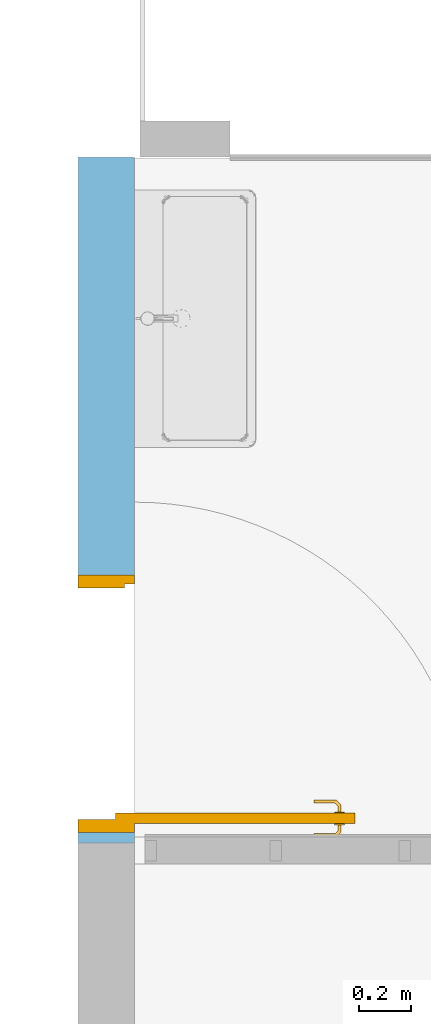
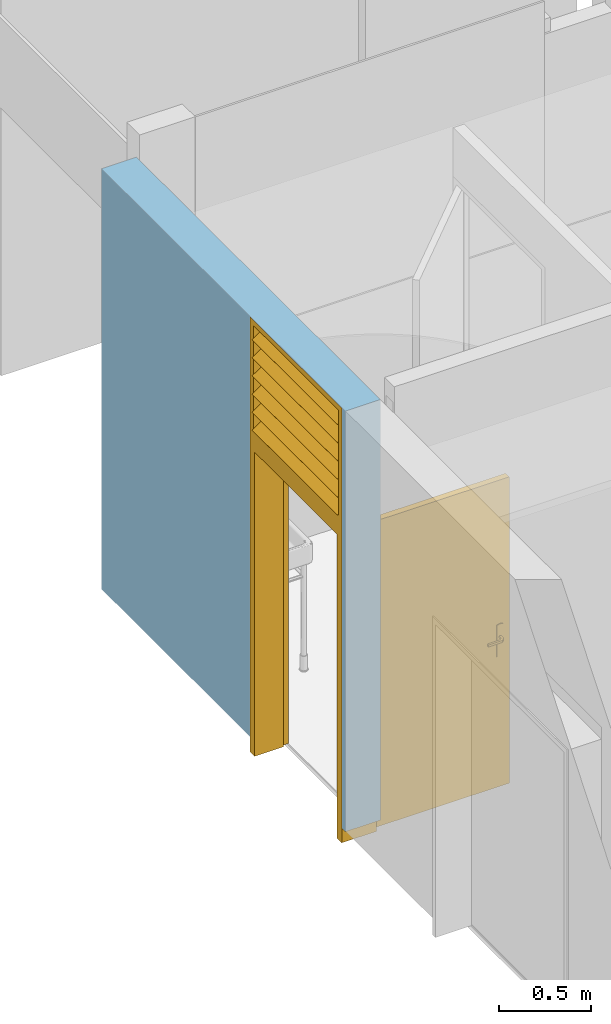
# One storey, part 9 of 15: 1 door, 1 opening, plus 1 element that does not belong to this part.
"""IFC2X3 building model written with IfcOpenShell, lengths in metres."""

from ifc_helpers import new_model, entity, si_unit, converted_unit, derived_unit, direction, frame, frame_2d, origin, place, context, subcontext, project, spatial, rectangle, extrude, faceted_brep, source, transform, mapped, material, material_list, layer, layer_set, layer_usage, type_object, type_shapes, element, fill, save


model = new_model("IFC2X3")

# Units and contexts
model_context = context("Model", 3, precision=1e-05, world=origin(), true_north=direction((6.12303176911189e-17, 1.0)))
body_context = subcontext(model_context, "Body", "Model", "MODEL_VIEW")
ifc_project = project(units=[si_unit("LENGTHUNIT", "METRE"), si_unit("AREAUNIT", "SQUARE_METRE"), si_unit("VOLUMEUNIT", "CUBIC_METRE"), converted_unit("PLANEANGLEUNIT", "DEGREE", entity("IfcRatioMeasure", 0.0174532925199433), si_unit("PLANEANGLEUNIT", "RADIAN"), dimensions=[0, 0, 0, 0, 0, 0, 0]), si_unit("MASSUNIT", "GRAM", prefix="KILO"), derived_unit("MASSDENSITYUNIT", [(si_unit("MASSUNIT", "GRAM", prefix="KILO"), 1), (si_unit("LENGTHUNIT", "METRE"), -3)]), si_unit("TIMEUNIT", "SECOND"), si_unit("FREQUENCYUNIT", "HERTZ"), si_unit("THERMODYNAMICTEMPERATUREUNIT", "DEGREE_CELSIUS"), derived_unit("THERMALTRANSMITTANCEUNIT", [(si_unit("MASSUNIT", "GRAM", prefix="KILO"), 1), (si_unit("THERMODYNAMICTEMPERATUREUNIT", "KELVIN"), -1), (si_unit("TIMEUNIT", "SECOND"), -3)]), derived_unit("VOLUMETRICFLOWRATEUNIT", [(si_unit("LENGTHUNIT", "METRE"), 3), (si_unit("TIMEUNIT", "SECOND"), -1)]), si_unit("ELECTRICCURRENTUNIT", "AMPERE"), si_unit("ELECTRICVOLTAGEUNIT", "VOLT"), si_unit("POWERUNIT", "WATT"), si_unit("FORCEUNIT", "NEWTON", prefix="KILO"), si_unit("ILLUMINANCEUNIT", "LUX"), si_unit("LUMINOUSFLUXUNIT", "LUMEN"), si_unit("LUMINOUSINTENSITYUNIT", "CANDELA"), derived_unit("USERDEFINED", [(si_unit("MASSUNIT", "GRAM", prefix="KILO"), -1), (si_unit("LENGTHUNIT", "METRE"), -2), (si_unit("TIMEUNIT", "SECOND"), 3), (si_unit("LUMINOUSFLUXUNIT", "LUMEN"), 1)]), derived_unit("LINEARVELOCITYUNIT", [(si_unit("LENGTHUNIT", "METRE"), 1), (si_unit("TIMEUNIT", "SECOND"), -1)]), si_unit("PRESSUREUNIT", "PASCAL"), derived_unit("USERDEFINED", [(si_unit("LENGTHUNIT", "METRE"), -2), (si_unit("MASSUNIT", "GRAM", prefix="KILO"), 1), (si_unit("TIMEUNIT", "SECOND"), -2)])], contexts=[model_context])

# Site, building, storey
site_placement = place(None, origin())
site = spatial("IfcSite", under=ifc_project, at=site_placement, Name="Surface", CompositionType="ELEMENT")
building_placement = place(site_placement, origin())
building = spatial("IfcBuilding", under=site, at=building_placement, Name="ExPREF", CompositionType="ELEMENT")
storey_placement = place(building_placement, frame((0.0, 0.0, 7.83)))
storey = spatial("IfcBuildingStorey", under=building, at=storey_placement, Name="R+2", CompositionType="ELEMENT", Elevation=7.83)

# Wall, opening, door
ifc_material_1 = material(Name="AA-BTC")
ifc_layer = layer(ifc_material_1, 0.22)
ifc_layer_set = layer_set([ifc_layer], Name="Mur de base:A-prémur BTC")
ifc_layer_usage = layer_usage(ifc_layer_set, "AXIS2", "NEGATIVE", 0.11)
wall_type = type_object("IfcWallType", Name="Mur de base:A-prémur BTC", PredefinedType="STANDARD", material=ifc_layer_set)
wall_placement = place(storey_placement, frame((45.269743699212, -189.77806962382, 0.0999999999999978), z_axis=(0.0, 0.0, 1.0), x_axis=(0.0, 1.0, 0.0)))
wall = element("IfcWallStandardCase", 1, at=wall_placement, inside=storey, type_object=wall_type, material=ifc_layer_usage, Name="Mur de base:A-prémur BTC", ObjectType="Mur de base:A-prémur BTC", context=body_context, shape_type="SweptSolid", body=[
    extrude(rectangle(XDim=2.66158136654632, YDim=0.220000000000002, at=frame_2d((1.33079068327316, 2.35922392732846e-16), x_axis=(-1.0, 0.0))), origin(), (0.0, 0.0, 1.0), 2.8),
])
opening_placement = place(wall_placement, frame((1.03999999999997, 0.109999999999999, -0.0999999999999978)))
opening = element("IfcOpeningElement", 2, at=opening_placement, cuts=wall, Name="Porte extérieur + naco:PP (0.93m x 2.04m):1", ObjectType="Opening", context=body_context, shape_type="SweptSolid", body=[
    extrude(rectangle(XDim=2.89571000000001, YDim=0.999999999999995, at=frame_2d((1.447855, 0.499999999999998), x_axis=(1.0, 0.0))), frame((0.0, 0.0, 0.0), z_axis=(0.0, -1.0, 0.0), x_axis=(0.0, 0.0, 1.0)), (0.0, 0.0, 1.0), 0.22),
])
ifc_material_2 = material(Name="AA-Aluminium")
ifc_material_3 = material(Name="AA-vitrage")
ifc_material_4 = material(Name="AA-Blanc satiné")
ifc_material_5 = material(Name="AA-bois menuiseries")
ifc_material_list_1 = material_list([ifc_material_2, ifc_material_3, ifc_material_4, ifc_material_5])
ifc_material_list_2 = material_list([ifc_material_2, ifc_material_3, ifc_material_4, ifc_material_5])
door_style = type_object("IfcDoorStyle", Name="PP (0.93m x 2.04m)", ConstructionType="NOTDEFINED", OperationType="SINGLE_SWING_RIGHT", ParameterTakesPrecedence=False, Sizeable=False, material=ifc_material_list_2)
shared_shape = source(origin(), body_context, "Body", "Brep", [
    faceted_brep([(0.105000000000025, 0.118950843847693, 2.83816600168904), (0.105000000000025, 0.102098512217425, 2.84996613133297), (0.105000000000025, 0.106516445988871, 2.85627559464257), (0.105000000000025, 0.123368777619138, 2.84447546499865), (1.03500000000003, 0.118950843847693, 2.83816600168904), (1.03500000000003, 0.123368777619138, 2.84447546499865), (1.03500000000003, 0.106516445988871, 2.85627559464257), (1.03500000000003, 0.102098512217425, 2.84996613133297)], [[[0, 1, 2, 3]], [[4, 5, 6, 7]], [[1, 0, 4, 7]], [[2, 1, 7, 6]], [[3, 2, 6, 5]], [[0, 3, 5, 4]]]),
    faceted_brep([(0.105000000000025, 0.119753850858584, 2.83931281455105), (0.105000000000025, 0.122621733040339, 2.84340857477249), (0.105000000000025, 0.228642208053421, 2.76917223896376), (0.105000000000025, 0.225774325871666, 2.76507647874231), (1.03500000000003, 0.119753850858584, 2.83931281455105), (1.03500000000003, 0.225774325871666, 2.76507647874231), (1.03500000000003, 0.228642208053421, 2.76917223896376), (1.03500000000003, 0.122621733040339, 2.84340857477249)], [[[0, 1, 2, 3]], [[4, 5, 6, 7]], [[1, 0, 4, 7]], [[2, 1, 7, 6]], [[3, 2, 6, 5]], [[0, 3, 5, 4]]]),
    faceted_brep([(0.105000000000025, 0.118950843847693, 2.23571998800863), (0.105000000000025, 0.102098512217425, 2.24752011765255), (0.105000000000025, 0.106516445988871, 2.25382958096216), (0.105000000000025, 0.123368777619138, 2.24202945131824), (1.03500000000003, 0.118950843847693, 2.23571998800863), (1.03500000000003, 0.123368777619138, 2.24202945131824), (1.03500000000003, 0.106516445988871, 2.25382958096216), (1.03500000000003, 0.102098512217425, 2.24752011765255)], [[[0, 1, 2, 3]], [[4, 5, 6, 7]], [[1, 0, 4, 7]], [[2, 1, 7, 6]], [[3, 2, 6, 5]], [[0, 3, 5, 4]]]),
    faceted_brep([(0.105000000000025, 0.119753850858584, 2.23686680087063), (0.105000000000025, 0.122621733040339, 2.24096256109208), (0.105000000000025, 0.228642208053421, 2.16672622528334), (0.105000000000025, 0.225774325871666, 2.1626304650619), (1.03500000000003, 0.119753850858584, 2.23686680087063), (1.03500000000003, 0.225774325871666, 2.1626304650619), (1.03500000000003, 0.228642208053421, 2.16672622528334), (1.03500000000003, 0.122621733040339, 2.24096256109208)], [[[0, 1, 2, 3]], [[4, 5, 6, 7]], [[1, 0, 4, 7]], [[2, 1, 7, 6]], [[3, 2, 6, 5]], [[0, 3, 5, 4]]]),
    faceted_brep([(0.105000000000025, 0.118950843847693, 2.35416600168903), (0.105000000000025, 0.102098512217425, 2.36596613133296), (0.105000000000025, 0.106516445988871, 2.37227559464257), (0.105000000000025, 0.123368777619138, 2.36047546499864), (1.03500000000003, 0.118950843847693, 2.35416600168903), (1.03500000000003, 0.123368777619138, 2.36047546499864), (1.03500000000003, 0.106516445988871, 2.37227559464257), (1.03500000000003, 0.102098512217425, 2.36596613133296)], [[[0, 1, 2, 3]], [[4, 5, 6, 7]], [[1, 0, 4, 7]], [[2, 1, 7, 6]], [[3, 2, 6, 5]], [[0, 3, 5, 4]]]),
    faceted_brep([(0.105000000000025, 0.119753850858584, 2.35531281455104), (0.105000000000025, 0.122621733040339, 2.35940857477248), (0.105000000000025, 0.228642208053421, 2.28517223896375), (0.105000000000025, 0.225774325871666, 2.2810764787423), (1.03500000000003, 0.119753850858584, 2.35531281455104), (1.03500000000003, 0.225774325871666, 2.2810764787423), (1.03500000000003, 0.228642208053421, 2.28517223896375), (1.03500000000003, 0.122621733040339, 2.35940857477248)], [[[0, 1, 2, 3]], [[4, 5, 6, 7]], [[1, 0, 4, 7]], [[2, 1, 7, 6]], [[3, 2, 6, 5]], [[0, 3, 5, 4]]]),
    faceted_brep([(0.105000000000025, 0.118950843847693, 2.47516600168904), (0.105000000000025, 0.102098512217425, 2.48696613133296), (0.105000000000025, 0.106516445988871, 2.49327559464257), (0.105000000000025, 0.123368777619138, 2.48147546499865), (1.03500000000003, 0.118950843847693, 2.47516600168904), (1.03500000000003, 0.123368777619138, 2.48147546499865), (1.03500000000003, 0.106516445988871, 2.49327559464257), (1.03500000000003, 0.102098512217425, 2.48696613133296)], [[[0, 1, 2, 3]], [[4, 5, 6, 7]], [[1, 0, 4, 7]], [[2, 1, 7, 6]], [[3, 2, 6, 5]], [[0, 3, 5, 4]]]),
    faceted_brep([(0.105000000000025, 0.119753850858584, 2.47631281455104), (0.105000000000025, 0.122621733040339, 2.48040857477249), (0.105000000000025, 0.228642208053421, 2.40617223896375), (0.105000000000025, 0.225774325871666, 2.40207647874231), (1.03500000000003, 0.119753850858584, 2.47631281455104), (1.03500000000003, 0.225774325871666, 2.40207647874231), (1.03500000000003, 0.228642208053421, 2.40617223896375), (1.03500000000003, 0.122621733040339, 2.48040857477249)], [[[0, 1, 2, 3]], [[4, 5, 6, 7]], [[1, 0, 4, 7]], [[2, 1, 7, 6]], [[3, 2, 6, 5]], [[0, 3, 5, 4]]]),
    faceted_brep([(0.105000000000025, 0.118950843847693, 2.71716600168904), (0.105000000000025, 0.102098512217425, 2.72896613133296), (0.105000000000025, 0.106516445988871, 2.73527559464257), (0.105000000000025, 0.123368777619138, 2.72347546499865), (1.03500000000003, 0.118950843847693, 2.71716600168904), (1.03500000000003, 0.123368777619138, 2.72347546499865), (1.03500000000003, 0.106516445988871, 2.73527559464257), (1.03500000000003, 0.102098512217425, 2.72896613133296)], [[[0, 1, 2, 3]], [[4, 5, 6, 7]], [[1, 0, 4, 7]], [[2, 1, 7, 6]], [[3, 2, 6, 5]], [[0, 3, 5, 4]]]),
    faceted_brep([(0.105000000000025, 0.119753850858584, 2.71831281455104), (0.105000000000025, 0.122621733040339, 2.72240857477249), (0.105000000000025, 0.228642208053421, 2.64817223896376), (0.105000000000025, 0.225774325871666, 2.64407647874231), (1.03500000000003, 0.119753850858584, 2.71831281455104), (1.03500000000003, 0.225774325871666, 2.64407647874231), (1.03500000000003, 0.228642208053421, 2.64817223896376), (1.03500000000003, 0.122621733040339, 2.72240857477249)], [[[0, 1, 2, 3]], [[4, 5, 6, 7]], [[1, 0, 4, 7]], [[2, 1, 7, 6]], [[3, 2, 6, 5]], [[0, 3, 5, 4]]]),
    faceted_brep([(0.105000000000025, 0.118950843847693, 2.59616600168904), (0.105000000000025, 0.102098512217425, 2.60796613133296), (0.105000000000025, 0.106516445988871, 2.61427559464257), (0.105000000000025, 0.123368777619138, 2.60247546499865), (1.03500000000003, 0.118950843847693, 2.59616600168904), (1.03500000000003, 0.123368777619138, 2.60247546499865), (1.03500000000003, 0.106516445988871, 2.61427559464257), (1.03500000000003, 0.102098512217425, 2.60796613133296)], [[[0, 1, 2, 3]], [[4, 5, 6, 7]], [[1, 0, 4, 7]], [[2, 1, 7, 6]], [[3, 2, 6, 5]], [[0, 3, 5, 4]]]),
    faceted_brep([(0.105000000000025, 0.119753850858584, 2.59731281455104), (0.105000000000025, 0.122621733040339, 2.60140857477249), (0.105000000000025, 0.228642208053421, 2.52717223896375), (0.105000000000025, 0.225774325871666, 2.52307647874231), (1.03500000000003, 0.119753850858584, 2.59731281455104), (1.03500000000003, 0.225774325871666, 2.52307647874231), (1.03500000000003, 0.228642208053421, 2.52717223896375), (1.03500000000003, 0.122621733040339, 2.60140857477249)], [[[0, 1, 2, 3]], [[4, 5, 6, 7]], [[1, 0, 4, 7]], [[2, 1, 7, 6]], [[3, 2, 6, 5]], [[0, 3, 5, 4]]]),
    faceted_brep([(0.172485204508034, -0.788999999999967, 1.007), (0.172485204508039, -0.788999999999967, 0.993000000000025), (0.150000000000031, -0.788999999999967, 0.993000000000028), (0.150000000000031, -0.788999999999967, 1.007), (0.177455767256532, -0.801000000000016, 1.007), (0.150000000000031, -0.801000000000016, 1.007), (0.150000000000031, -0.801000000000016, 0.992999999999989), (0.177455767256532, -0.801000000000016, 0.992999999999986), (0.195970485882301, -0.782485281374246, 0.992999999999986), (0.195970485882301, -0.782485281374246, 1.007), (0.187945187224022, -0.694954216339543, 1.00778044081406), (0.191995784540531, -0.694954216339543, 1.00778044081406), (0.195970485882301, -0.694954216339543, 1.007), (0.195970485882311, -0.694954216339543, 0.992999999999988), (0.19199578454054, -0.694954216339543, 0.99221955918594), (0.187945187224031, -0.694954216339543, 0.992219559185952), (0.183970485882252, -0.694954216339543, 0.993000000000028), (0.183970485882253, -0.694954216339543, 1.007), (0.183970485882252, -0.777514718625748, 0.993000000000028), (0.183970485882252, -0.777514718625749, 1.007), (0.183970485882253, -0.736234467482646, 1.007), (0.183970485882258, -0.736234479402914, 0.993000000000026), (0.189970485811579, -0.737057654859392, 0.992121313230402), (0.195970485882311, -0.742554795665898, 0.992999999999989), (0.19199578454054, -0.780838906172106, 0.99221955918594), (0.187945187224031, -0.779161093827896, 0.992219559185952), (0.150000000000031, -0.792974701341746, 0.992219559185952), (0.150000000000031, -0.797025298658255, 0.99221955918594), (0.150000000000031, -0.797025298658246, 1.00778044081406), (0.150000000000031, -0.792974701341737, 1.00778044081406), (0.174131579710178, -0.792974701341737, 1.00778044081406), (0.175809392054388, -0.797025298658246, 1.00778044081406), (0.191995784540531, -0.780838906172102, 1.00778044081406), (0.187945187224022, -0.779161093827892, 1.00778044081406), (0.175809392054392, -0.797025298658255, 0.99221955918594), (0.174131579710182, -0.792974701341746, 0.992219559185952), (0.189970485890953, -0.737057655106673, 1.0078786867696), (0.195970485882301, -0.742554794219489, 1.007)], [[[0, 1, 2, 3]], [[4, 5, 6, 7]], [[8, 9, 4, 7]], [[10, 11, 12, 13, 14, 15, 16, 17]], [[18, 19, 20, 17, 16, 21]], [[22, 14, 23]], [[23, 14, 13]], [[23, 8, 24]], [[25, 21, 22]], [[21, 25, 18]], [[16, 15, 21]], [[22, 15, 14]], [[22, 21, 15]], [[22, 23, 24]], [[25, 22, 24]], [[26, 27, 6, 5, 28, 29, 3, 2]], [[29, 30, 0, 3]], [[29, 28, 31, 32, 33, 30]], [[5, 4, 31, 28]], [[6, 27, 34, 7]], [[27, 26, 35, 25, 24, 34]], [[26, 2, 1, 35]], [[19, 18, 1, 0]], [[0, 30, 33, 19]], [[4, 9, 32, 31]], [[7, 34, 24, 8]], [[35, 1, 18, 25]], [[36, 10, 20]], [[11, 36, 37]], [[33, 20, 19]], [[10, 17, 20]], [[11, 37, 12]], [[37, 32, 9]], [[36, 32, 37]], [[36, 33, 32]], [[36, 20, 33]], [[10, 36, 11]], [[9, 8, 23, 13, 12, 37]]]),
    faceted_brep([(0.100000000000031, -0.792974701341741, 1.00778044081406), (0.100000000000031, -0.79702529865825, 1.00778044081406), (0.100000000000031, -0.80100000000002, 1.00699999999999), (0.100000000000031, -0.801000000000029, 0.992999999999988), (0.100000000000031, -0.797025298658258, 0.99221955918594), (0.100000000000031, -0.792974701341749, 0.992219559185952), (0.100000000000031, -0.78899999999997, 0.993000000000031), (0.100000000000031, -0.788999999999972, 1.007), (0.0659718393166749, -0.777652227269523, 0.993000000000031), (0.065971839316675, -0.777652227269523, 1.00699999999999), (0.0773196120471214, -0.78899999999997, 1.00699999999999), (0.0773196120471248, -0.788999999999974, 0.993000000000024), (0.0539718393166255, -0.78262279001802, 1.00699999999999), (0.0539718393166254, -0.78262279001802, 0.992999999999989), (0.0723490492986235, -0.80100000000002, 0.992999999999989), (0.0723490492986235, -0.80100000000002, 1.007), (0.065971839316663, -0.736316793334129, 0.993000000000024), (0.065971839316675, -0.694981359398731, 0.993000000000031), (0.065971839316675, -0.694981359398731, 1.00699999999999), (0.065971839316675, -0.736316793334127, 1.007), (0.0739954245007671, -0.79702529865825, 1.00778044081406), (0.0756732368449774, -0.792974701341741, 1.00778044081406), (0.0619971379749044, -0.779298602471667, 1.00778044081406), (0.0579465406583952, -0.780976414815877, 1.00778044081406), (0.0756732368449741, -0.792974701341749, 0.992219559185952), (0.0739954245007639, -0.797025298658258, 0.99221955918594), (0.0579465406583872, -0.78097641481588, 0.99221955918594), (0.0619971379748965, -0.77929860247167, 0.992219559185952), (0.0539718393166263, -0.694981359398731, 1.007), (0.0579465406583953, -0.694981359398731, 1.00778044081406), (0.0619971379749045, -0.694981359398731, 1.00778044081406), (0.0619971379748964, -0.694981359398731, 0.992219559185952), (0.0579465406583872, -0.694981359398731, 0.99221955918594), (0.0539718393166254, -0.694981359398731, 0.992999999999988), (0.059971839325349, -0.737139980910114, 1.0078786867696), (0.053971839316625, -0.74269230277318, 1.007), (0.0599718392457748, -0.737139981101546, 0.992121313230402), (0.0539718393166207, -0.74269231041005, 0.992999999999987)], [[[0, 1, 2, 3, 4, 5, 6, 7]], [[8, 9, 10, 11]], [[12, 13, 14, 15]], [[9, 8, 16, 17, 18, 19]], [[2, 1, 20, 15]], [[1, 0, 21, 22, 23, 20]], [[0, 7, 10, 21]], [[11, 10, 7, 6]], [[5, 24, 11, 6]], [[5, 4, 25, 26, 27, 24]], [[3, 14, 25, 4]], [[15, 14, 3, 2]], [[15, 20, 23, 12]], [[21, 10, 9, 22]], [[11, 24, 27, 8]], [[25, 14, 13, 26]], [[28, 29, 30, 18, 17, 31, 32, 33]], [[34, 29, 35]], [[35, 29, 28]], [[35, 12, 23]], [[22, 19, 34]], [[19, 22, 9]], [[18, 30, 19]], [[34, 30, 29]], [[34, 19, 30]], [[34, 35, 23]], [[22, 34, 23]], [[36, 31, 16]], [[32, 36, 37]], [[27, 16, 8]], [[31, 17, 16]], [[32, 37, 33]], [[37, 26, 13]], [[36, 26, 37]], [[36, 27, 26]], [[36, 16, 27]], [[31, 36, 32]], [[13, 12, 35, 28, 33, 37]]]),
    faceted_brep([(0.150000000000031, -0.794999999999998, 1.08535898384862), (0.150000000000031, -0.805352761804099, 1.08399601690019), (0.150000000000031, -0.814999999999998, 1.08), (0.150000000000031, -0.814999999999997, 0.870000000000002), (0.150000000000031, -0.805352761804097, 0.866003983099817), (0.150000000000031, -0.794999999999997, 0.86464101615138), (0.150000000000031, -0.784647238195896, 0.866003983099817), (0.150000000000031, -0.774999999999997, 0.870000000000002), (0.150000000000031, -0.774999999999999, 1.08), (0.150000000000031, -0.784647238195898, 1.08399601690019), (0.145000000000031, -0.805352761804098, 0.866003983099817), (0.145000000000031, -0.814999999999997, 0.870000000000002), (0.145000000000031, -0.794999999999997, 0.86464101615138), (0.145000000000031, -0.784647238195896, 0.866003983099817), (0.145000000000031, -0.774999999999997, 0.870000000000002), (0.145000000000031, -0.814999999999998, 1.08), (0.145000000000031, -0.805352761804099, 1.08399601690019), (0.145000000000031, -0.794999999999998, 1.08535898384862), (0.145000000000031, -0.784647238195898, 1.08399601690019), (0.145000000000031, -0.774999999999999, 1.08)], [[[0, 1, 2, 3, 4, 5, 6, 7, 8, 9]], [[10, 4, 3, 11]], [[12, 5, 4, 10]], [[13, 6, 5, 12]], [[13, 14, 7, 6]], [[11, 15, 16, 17, 18, 19, 14, 13, 12, 10]], [[18, 9, 8, 19]], [[17, 0, 9, 18]], [[16, 1, 0, 17]], [[16, 15, 2, 1]], [[3, 2, 15, 11]], [[7, 14, 19, 8]]]),
    faceted_brep([(0.100000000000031, -0.814999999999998, 0.870000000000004), (0.100000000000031, -0.814999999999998, 1.08), (0.100000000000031, -0.805352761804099, 1.08399601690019), (0.100000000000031, -0.794999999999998, 1.08535898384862), (0.100000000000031, -0.784647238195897, 1.08399601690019), (0.100000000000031, -0.774999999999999, 1.08), (0.100000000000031, -0.774999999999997, 0.870000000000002), (0.100000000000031, -0.784647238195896, 0.866003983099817), (0.100000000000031, -0.794999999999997, 0.86464101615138), (0.100000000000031, -0.805352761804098, 0.866003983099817), (0.105000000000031, -0.805352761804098, 0.866003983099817), (0.105000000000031, -0.814999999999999, 0.870000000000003), (0.105000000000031, -0.794999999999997, 0.86464101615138), (0.105000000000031, -0.784647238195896, 0.866003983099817), (0.105000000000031, -0.774999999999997, 0.870000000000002), (0.105000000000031, -0.774999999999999, 1.08), (0.105000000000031, -0.814999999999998, 1.08), (0.105000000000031, -0.784647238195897, 1.08399601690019), (0.105000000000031, -0.794999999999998, 1.08535898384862), (0.105000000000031, -0.805352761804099, 1.08399601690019)], [[[0, 1, 2, 3, 4, 5, 6, 7, 8, 9]], [[9, 10, 11, 0]], [[8, 12, 10, 9]], [[7, 13, 12, 8]], [[7, 6, 14, 13]], [[14, 6, 5, 15]], [[16, 11, 10, 12, 13, 14, 15, 17, 18, 19]], [[4, 17, 15, 5]], [[3, 18, 17, 4]], [[2, 19, 18, 3]], [[2, 1, 16, 19]], [[11, 16, 1, 0]]]),
    faceted_brep([(0.145000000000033, -0.854999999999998, 2.04), (0.145000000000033, -0.854999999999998, 0.0), (0.145000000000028, 0.0750000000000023, 0.0), (0.145000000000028, 0.0750000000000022, 2.04), (0.105000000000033, -0.854999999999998, 2.04), (0.105000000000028, 0.075000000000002, 2.04), (0.105000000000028, 0.0750000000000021, 0.0), (0.105000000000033, -0.854999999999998, 0.0)], [[[0, 1, 2, 3]], [[4, 5, 6, 7]], [[3, 5, 4, 0]], [[2, 6, 5, 3]], [[1, 7, 6, 2]], [[0, 4, 7, 1]]]),
    faceted_brep([(1.07000000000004, 0.0, 0.0), (1.03500000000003, 0.0, 0.0), (1.03500000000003, 0.0400000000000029, 0.0), (1.02000000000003, 0.0400000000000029, 0.0), (1.02000000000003, 0.220000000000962, 0.0), (1.07000000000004, 0.220000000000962, 0.0), (1.07000000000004, 0.220000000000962, 2.07500000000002), (1.07000000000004, 0.0, 2.07500000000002), (1.02000000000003, 0.220000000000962, 2.025), (0.120000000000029, 0.220000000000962, 2.025), (0.120000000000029, 0.220000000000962, 0.0), (0.0700000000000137, 0.220000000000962, 0.0), (0.0700000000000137, 0.220000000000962, 2.07500000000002), (1.02000000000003, 0.0400000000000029, 2.025), (1.03500000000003, 0.0400000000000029, 2.04), (0.105000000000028, 0.0400000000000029, 2.04), (0.105000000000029, 0.0400000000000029, 0.0), (0.120000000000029, 0.0400000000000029, 0.0), (0.120000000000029, 0.0400000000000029, 2.025), (1.03500000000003, 0.0, 2.04), (0.0700000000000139, 0.0, 2.07500000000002), (0.0700000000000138, 0.0, 0.0), (0.105000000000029, 0.0, 0.0), (0.105000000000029, 0.0, 2.04)], [[[0, 1, 2, 3, 4, 5]], [[5, 6, 7, 0]], [[4, 8, 9, 10, 11, 12, 6, 5]], [[3, 13, 8, 4]], [[2, 14, 15, 16, 17, 18, 13, 3]], [[1, 19, 14, 2]], [[0, 7, 20, 21, 22, 23, 19, 1]], [[12, 11, 21, 20]], [[21, 11, 10, 17, 16, 22]], [[18, 17, 10, 9]], [[23, 22, 16, 15]], [[6, 12, 20, 7]], [[13, 18, 9, 8]], [[19, 23, 15, 14]]]),
    faceted_brep([(1.07000000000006, 0.22, 2.07500000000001), (0.0700000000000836, 0.22, 2.07500000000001), (0.0700000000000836, 0.22, 2.12500000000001), (1.07000000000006, 0.22, 2.12500000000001), (1.07000000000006, 0.0, 2.07500000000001), (1.07000000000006, 0.0, 2.12500000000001), (0.0700000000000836, 0.0, 2.12500000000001), (0.0700000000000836, 0.0, 2.07500000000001)], [[[0, 1, 2, 3]], [[4, 5, 6, 7]], [[3, 5, 4, 0]], [[2, 6, 5, 3]], [[1, 7, 6, 2]], [[0, 4, 7, 1]]]),
    faceted_brep([(0.105000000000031, 0.0, 2.86071000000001), (1.03500000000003, 0.0, 2.86071000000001), (1.03500000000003, 0.0, 2.16000000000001), (0.105000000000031, 0.0, 2.16000000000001), (1.07000000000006, 0.0, 2.89571000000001), (0.0700000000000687, 0.0, 2.89571000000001), (0.0700000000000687, 0.0, 2.12500000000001), (1.07000000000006, 0.0, 2.12500000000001), (1.07000000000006, 0.22, 2.89571000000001), (1.07000000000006, 0.22, 2.12500000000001), (0.0700000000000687, 0.22, 2.12500000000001), (0.0700000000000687, 0.22, 2.89571000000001), (0.105000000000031, 0.22, 2.86071000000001), (0.105000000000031, 0.22, 2.16000000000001), (1.03500000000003, 0.22, 2.16000000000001), (1.03500000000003, 0.22, 2.86071000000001)], [[[0, 1, 2, 3], [4, 5, 6, 7]], [[8, 4, 7, 9]], [[10, 6, 5, 11]], [[11, 5, 4, 8]], [[12, 0, 3, 13]], [[14, 2, 1, 15]], [[15, 1, 0, 12]], [[8, 9, 10, 11], [12, 13, 14, 15]], [[9, 7, 6, 10]], [[13, 3, 2, 14]]], outer=[[False, True], [True], [True], [True], [True], [True], [True], [True, False], [True], [True]]),
])
type_shapes(door_style, [shared_shape])
door_placement = place(opening_placement, frame((-1.07000000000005, -0.219999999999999, 0.0)))
door = element("IfcDoor", 3, at=door_placement, inside=storey, type_object=door_style, material=ifc_material_list_1, Name="Porte extérieur + naco:PP (0.93m x 2.04m)", ObjectType="PP (0.93m x 2.04m)", OverallHeight=2.89571000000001, OverallWidth=1.00000000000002, context=body_context, shape_type="MappedRepresentation", body=[
    mapped(shared_shape, transform((0.0, 0.0, 0.0), scale=1.0)),
])
fill(opening, door)

save(model, "model.ifc")
